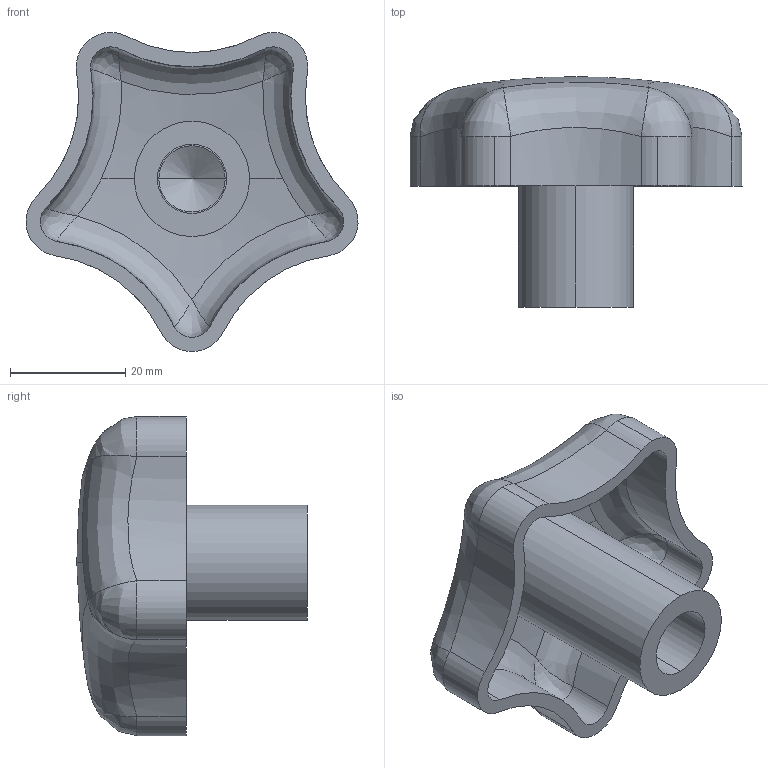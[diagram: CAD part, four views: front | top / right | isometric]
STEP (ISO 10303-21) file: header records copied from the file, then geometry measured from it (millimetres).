
FILE_DESCRIPTION (( 'STEP AP203' ), '1' );
FILE_NAME ('7016.W260.step', '2010-01-31T12:12:43', ( 'Wixroyd' ), ( 'Wixroyd' ), 'SwSTEP 2.0', 'SolidWorks 2009', '' );
FILE_SCHEMA (( 'CONFIG_CONTROL_DESIGN' ));
Length unit declared in the file: millimetre
Products named in the file (1): 7016.W260
Bounding box: 57.63 x 40 x 55.39 mm (x, y, z)
Volume: 18576 mm3; surface area: 12154.5 mm2
Topology: 1 solids, 1 shells, 59 faces, 146 edges, 80 vertices
Faces by surface type: cylinder 30, bspline 20, sphere 4, plane 3, cone 2
Entity records: 14037 total; most frequent: CARTESIAN_POINT 12740, ORIENTED_EDGE 268, DIRECTION 228, EDGE_CURVE 134, AXIS2_PLACEMENT_3D 98, VERTEX_POINT 80, EDGE_LOOP 62, FACE_OUTER_BOUND 59
